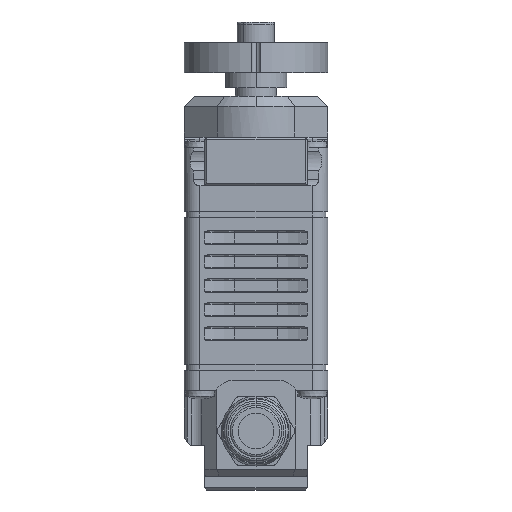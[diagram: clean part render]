
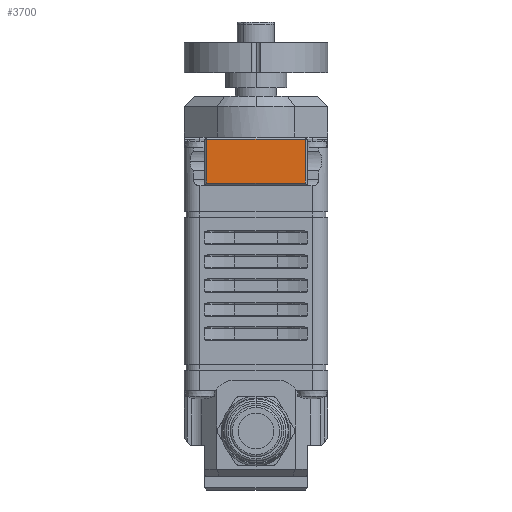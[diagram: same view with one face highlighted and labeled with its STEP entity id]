
A CAD part, front view. The second image highlights one B-rep face of the part: STEP entity #3700.
In plain terms, the highlighted planar face has unit normal (0, -1, 0) as drawn and (0, 1, 0) by its records, which use the part's own axes.
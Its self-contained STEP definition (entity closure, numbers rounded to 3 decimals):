
#1248 = LINE ( 'NONE', #23659, #31661 ) ;
#1435 = DIRECTION ( 'NONE',  ( 0., 0., -1. ) ) ;
#2614 = EDGE_CURVE ( 'NONE', #30258, #8631, #4015, .T. ) ;
#3700 = ADVANCED_FACE ( 'NONE', ( #19291 ), #7287, .T. ) ;
#3998 = DIRECTION ( 'NONE',  ( 0., 0., 1. ) ) ;
#4015 = LINE ( 'NONE', #13618, #14021 ) ;
#4688 = EDGE_CURVE ( 'NONE', #6737, #28856, #1248, .T. ) ;
#4889 = ORIENTED_EDGE ( 'NONE', *, *, #24524, .T. ) ;
#5197 = CARTESIAN_POINT ( 'NONE',  ( 7.2, 16.5, -6.3 ) ) ;
#6416 = CARTESIAN_POINT ( 'NONE',  ( 0., 16.5, -12.7 ) ) ;
#6581 = DIRECTION ( 'NONE',  ( 1., 0., 0. ) ) ;
#6737 = VERTEX_POINT ( 'NONE', #30787 ) ;
#6875 = ORIENTED_EDGE ( 'NONE', *, *, #12486, .F. ) ;
#7142 = CARTESIAN_POINT ( 'NONE',  ( 0., 16.5, -13. ) ) ;
#7287 = PLANE ( 'NONE',  #9045 ) ;
#8631 = VERTEX_POINT ( 'NONE', #16146 ) ;
#9045 = AXIS2_PLACEMENT_3D ( 'NONE', #7142, #31466, #16897 ) ;
#9662 = CARTESIAN_POINT ( 'NONE',  ( -7.2, 16.5, -6.3 ) ) ;
#12486 = EDGE_CURVE ( 'NONE', #6737, #8631, #30756, .T. ) ;
#13618 = CARTESIAN_POINT ( 'NONE',  ( 7.2, 16.5, -13. ) ) ;
#14021 = VECTOR ( 'NONE', #1435, 1000. ) ;
#16146 = CARTESIAN_POINT ( 'NONE',  ( 7.2, 16.5, -12.7 ) ) ;
#16706 = EDGE_LOOP ( 'NONE', ( #21048, #6875, #18490, #4889 ) ) ;
#16897 = DIRECTION ( 'NONE',  ( 0., 0., 1. ) ) ;
#18490 = ORIENTED_EDGE ( 'NONE', *, *, #4688, .T. ) ;
#18493 = CARTESIAN_POINT ( 'NONE',  ( 0., 16.5, -6.3 ) ) ;
#19291 = FACE_OUTER_BOUND ( 'NONE', #16706, .T. ) ;
#21048 = ORIENTED_EDGE ( 'NONE', *, *, #2614, .T. ) ;
#21050 = DIRECTION ( 'NONE',  ( 1., 0., 0. ) ) ;
#23659 = CARTESIAN_POINT ( 'NONE',  ( -7.2, 16.5, -13. ) ) ;
#24524 = EDGE_CURVE ( 'NONE', #28856, #30258, #30683, .T. ) ;
#26838 = VECTOR ( 'NONE', #21050, 1000. ) ;
#28100 = VECTOR ( 'NONE', #6581, 1000. ) ;
#28856 = VERTEX_POINT ( 'NONE', #9662 ) ;
#30258 = VERTEX_POINT ( 'NONE', #5197 ) ;
#30683 = LINE ( 'NONE', #18493, #26838 ) ;
#30756 = LINE ( 'NONE', #6416, #28100 ) ;
#30787 = CARTESIAN_POINT ( 'NONE',  ( -7.2, 16.5, -12.7 ) ) ;
#31466 = DIRECTION ( 'NONE',  ( 0., 1., 0. ) ) ;
#31661 = VECTOR ( 'NONE', #3998, 1000. ) ;
